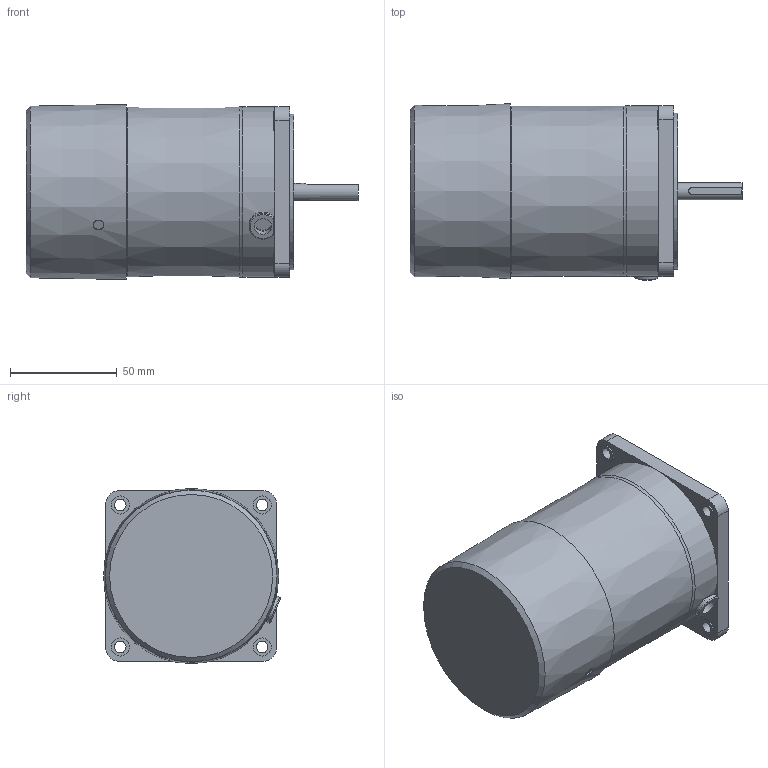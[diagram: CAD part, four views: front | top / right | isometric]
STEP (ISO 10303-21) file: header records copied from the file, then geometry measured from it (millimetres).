
FILE_DESCRIPTION((''),'2;1');
FILE_NAME('\\Spgrnd02\고객배포용도면\3D\01 Standard AC Motor\03 ELECTROMAGNETIC BRAKE MOTOR\03_815_BK\S8R15(25)K-E_R01.stp','2015-03-23T18:03:27',('smkim'),(''),'Autodesk Inventor 2012','Autodesk Inventor 2012','');
FILE_SCHEMA(('AUTOMOTIVE_DESIGN { 1 0 10303 214 1 1 1 1 }'));
Length unit declared in the file: millimetre
Products named in the file (1): S8R15(25)K-E
Bounding box: 155.5 x 82.79 x 82 mm (x, y, z)
Volume: 630617.8 mm3; surface area: 48285.9 mm2
Topology: 1 solids, 2 shells, 95 faces, 217 edges, 141 vertices
Faces by surface type: plane 56, cylinder 33, cone 3, torus 2, bspline 1
Full cylindrical faces by diameter (mm): 5 x1, 5.5 x4, 8 x2, 8.5 x4, 34 x1, 73 x1, 78 x1, 80 x1
Entity records: 2871 total; most frequent: CARTESIAN_POINT 621, DIRECTION 454, ORIENTED_EDGE 390, EDGE_CURVE 195, AXIS2_PLACEMENT_3D 172, VERTEX_POINT 138, EDGE_LOOP 137, VECTOR 110
